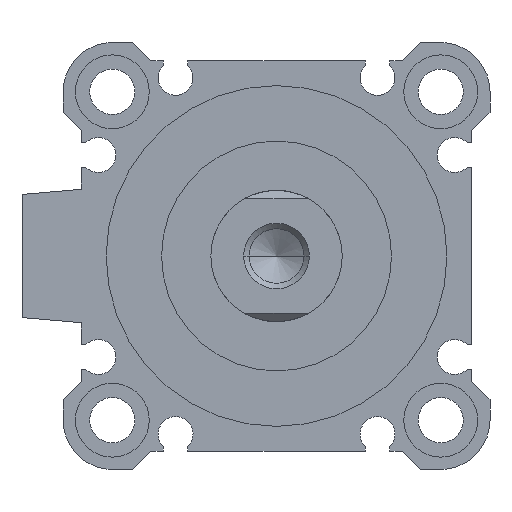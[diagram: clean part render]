
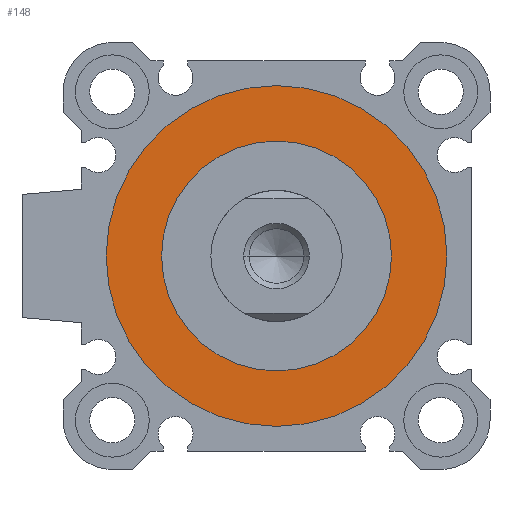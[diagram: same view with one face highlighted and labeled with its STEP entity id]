
A CAD part, left-side view. The second image highlights one B-rep face of the part: STEP entity #148.
In plain terms, the highlighted planar face has unit normal (-1, 0, 0).
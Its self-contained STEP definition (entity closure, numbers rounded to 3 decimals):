
#63 = EDGE_LOOP ( 'NONE', ( #2047, #451 ) ) ;
#140 = DIRECTION ( 'NONE',  ( 1., 0., 0. ) ) ;
#148 = ADVANCED_FACE ( 'NONE', ( #3875, #5008 ), #316, .F. ) ;
#195 = CARTESIAN_POINT ( 'NONE',  ( 3.3, 0., 0. ) ) ;
#279 = CARTESIAN_POINT ( 'NONE',  ( 3.3, 0., 0. ) ) ;
#316 = PLANE ( 'NONE',  #1492 ) ;
#390 = AXIS2_PLACEMENT_3D ( 'NONE', #5030, #808, #4310 ) ;
#451 = ORIENTED_EDGE ( 'NONE', *, *, #1605, .F. ) ;
#469 = AXIS2_PLACEMENT_3D ( 'NONE', #890, #4860, #3217 ) ;
#510 = EDGE_LOOP ( 'NONE', ( #2457, #3216 ) ) ;
#532 = CIRCLE ( 'NONE', #2057, 20.75 ) ;
#684 = VERTEX_POINT ( 'NONE', #1904 ) ;
#808 = DIRECTION ( 'NONE',  ( 1., 0., 0. ) ) ;
#890 = CARTESIAN_POINT ( 'NONE',  ( 3.3, 0., 0. ) ) ;
#1136 = DIRECTION ( 'NONE',  ( 0., 1., 0. ) ) ;
#1277 = CIRCLE ( 'NONE', #469, 20.75 ) ;
#1357 = CIRCLE ( 'NONE', #390, 14. ) ;
#1451 = DIRECTION ( 'NONE',  ( 0., 0., -1. ) ) ;
#1453 = EDGE_CURVE ( 'NONE', #1542, #2461, #4097, .T. ) ;
#1468 = DIRECTION ( 'NONE',  ( 1., 0., 0. ) ) ;
#1492 = AXIS2_PLACEMENT_3D ( 'NONE', #1515, #1468, #1136 ) ;
#1515 = CARTESIAN_POINT ( 'NONE',  ( 3.3, 0., 0. ) ) ;
#1542 = VERTEX_POINT ( 'NONE', #2244 ) ;
#1605 = EDGE_CURVE ( 'NONE', #3687, #684, #532, .T. ) ;
#1860 = CARTESIAN_POINT ( 'NONE',  ( 3.3, 0., -20.75 ) ) ;
#1904 = CARTESIAN_POINT ( 'NONE',  ( 3.3, 0., 20.75 ) ) ;
#1991 = CARTESIAN_POINT ( 'NONE',  ( 3.3, 0., -14. ) ) ;
#2047 = ORIENTED_EDGE ( 'NONE', *, *, #2632, .F. ) ;
#2057 = AXIS2_PLACEMENT_3D ( 'NONE', #279, #2559, #1451 ) ;
#2244 = CARTESIAN_POINT ( 'NONE',  ( 3.3, 0., 14. ) ) ;
#2421 = DIRECTION ( 'NONE',  ( 0., 0., -1. ) ) ;
#2457 = ORIENTED_EDGE ( 'NONE', *, *, #1453, .T. ) ;
#2461 = VERTEX_POINT ( 'NONE', #1991 ) ;
#2559 = DIRECTION ( 'NONE',  ( 1., 0., 0. ) ) ;
#2632 = EDGE_CURVE ( 'NONE', #684, #3687, #1277, .T. ) ;
#2876 = EDGE_CURVE ( 'NONE', #2461, #1542, #1357, .T. ) ;
#3185 = AXIS2_PLACEMENT_3D ( 'NONE', #195, #140, #2421 ) ;
#3216 = ORIENTED_EDGE ( 'NONE', *, *, #2876, .T. ) ;
#3217 = DIRECTION ( 'NONE',  ( 0., 0., -1. ) ) ;
#3687 = VERTEX_POINT ( 'NONE', #1860 ) ;
#3875 = FACE_OUTER_BOUND ( 'NONE', #63, .T. ) ;
#4097 = CIRCLE ( 'NONE', #3185, 14. ) ;
#4310 = DIRECTION ( 'NONE',  ( 0., 0., -1. ) ) ;
#4860 = DIRECTION ( 'NONE',  ( 1., 0., 0. ) ) ;
#5008 = FACE_BOUND ( 'NONE', #510, .T. ) ;
#5030 = CARTESIAN_POINT ( 'NONE',  ( 3.3, 0., 0. ) ) ;
